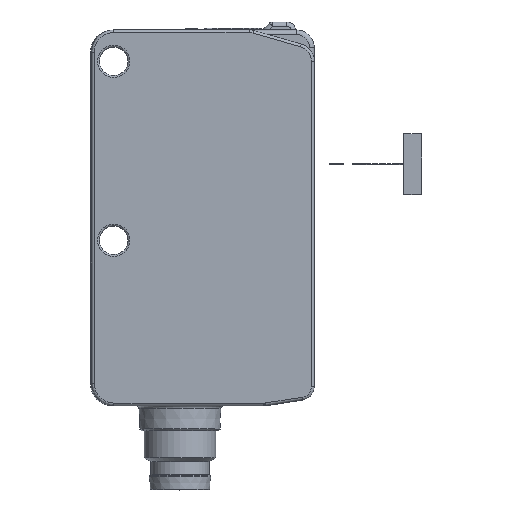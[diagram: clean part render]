
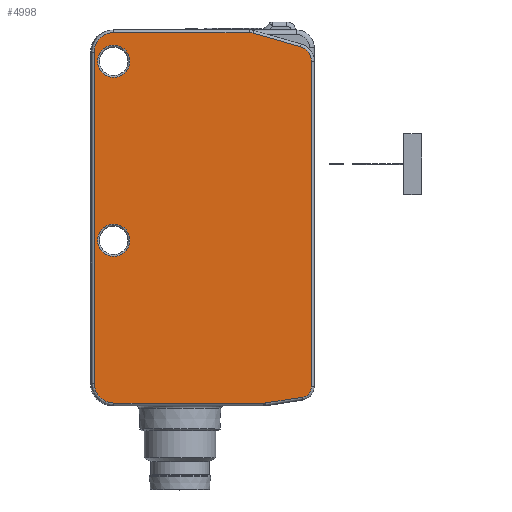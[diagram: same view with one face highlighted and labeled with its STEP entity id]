
A CAD part, top view. The second image highlights one B-rep face of the part: STEP entity #4998.
In plain terms, the highlighted planar face has unit normal (0, 0, 1).
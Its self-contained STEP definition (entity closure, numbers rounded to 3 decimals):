
#3708=FACE_BOUND('',#6026,.T.);
#3709=FACE_BOUND('',#6027,.T.);
#3710=FACE_BOUND('',#6028,.T.);
#3853=B_SPLINE_CURVE_WITH_KNOTS('',3,(#13642,#13643,#13644,#13645,#13646,
#13647,#13648),.UNSPECIFIED.,.F.,.F.,(4,1,1,1,4),(0.,0.282,
0.52,0.726,1.),.UNSPECIFIED.);
#3938=B_SPLINE_CURVE_WITH_KNOTS('',3,(#16103,#16104,#16105,#16106,#16107,
#16108,#16109),.UNSPECIFIED.,.F.,.F.,(4,1,1,1,4),(0.,0.282,
0.52,0.794,1.),.UNSPECIFIED.);
#4467=CIRCLE('',#10942,1.8);
#4471=CIRCLE('',#10948,1.8);
#4657=CIRCLE('',#11298,1.7);
#4660=CIRCLE('',#11302,1.7);
#4661=CIRCLE('',#11305,1.2);
#4998=ADVANCED_FACE('F237237',(#3708,#3709,#3710),#5235,.T.);
#5235=PLANE('',#11306);
#6026=EDGE_LOOP('',(#7580,#7581,#7582,#7583,#7584,#7585,#7586,#7587,#7588,
#7589,#7590));
#6027=EDGE_LOOP('',(#7591));
#6028=EDGE_LOOP('',(#7592));
#7580=ORIENTED_EDGE('',*,*,#9797,.T.);
#7581=ORIENTED_EDGE('',*,*,#9322,.T.);
#7582=ORIENTED_EDGE('',*,*,#9798,.T.);
#7583=ORIENTED_EDGE('',*,*,#9799,.T.);
#7584=ORIENTED_EDGE('',*,*,#9800,.T.);
#7585=ORIENTED_EDGE('',*,*,#9801,.T.);
#7586=ORIENTED_EDGE('',*,*,#9788,.T.);
#7587=ORIENTED_EDGE('',*,*,#9790,.T.);
#7588=ORIENTED_EDGE('',*,*,#9792,.T.);
#7589=ORIENTED_EDGE('',*,*,#9794,.T.);
#7590=ORIENTED_EDGE('',*,*,#9796,.T.);
#7591=ORIENTED_EDGE('',*,*,#9283,.T.);
#7592=ORIENTED_EDGE('',*,*,#9279,.T.);
#8507=VERTEX_POINT('',#13391);
#8511=VERTEX_POINT('',#13429);
#8540=VERTEX_POINT('',#13607);
#8542=VERTEX_POINT('',#13641);
#8825=VERTEX_POINT('',#16050);
#8826=VERTEX_POINT('',#16052);
#8827=VERTEX_POINT('',#16071);
#8828=VERTEX_POINT('',#16075);
#8829=VERTEX_POINT('',#16096);
#8830=VERTEX_POINT('',#16102);
#8831=VERTEX_POINT('',#16134);
#8832=VERTEX_POINT('',#16136);
#8833=VERTEX_POINT('',#16138);
#9279=EDGE_CURVE('E516516',#8507,#8507,#4467,.T.);
#9283=EDGE_CURVE('E513513',#8511,#8511,#4471,.T.);
#9322=EDGE_CURVE('E689689',#8540,#8542,#3853,.T.);
#9788=EDGE_CURVE('E694694',#8825,#8826,#4657,.T.);
#9790=EDGE_CURVE('E695695',#8826,#8827,#10414,.T.);
#9792=EDGE_CURVE('E696696',#8827,#8828,#4660,.T.);
#9794=EDGE_CURVE('E697697',#8828,#8829,#10415,.T.);
#9796=EDGE_CURVE('E698698',#8829,#8830,#3938,.T.);
#9797=EDGE_CURVE('E699699',#8830,#8540,#10416,.T.);
#9798=EDGE_CURVE('E690690',#8542,#8831,#10417,.T.);
#9799=EDGE_CURVE('E691691',#8831,#8832,#10418,.T.);
#9800=EDGE_CURVE('E692692',#8832,#8833,#4661,.T.);
#9801=EDGE_CURVE('E693693',#8833,#8825,#10419,.T.);
#10414=LINE('',#16072,#10723);
#10415=LINE('',#16097,#10724);
#10416=LINE('',#16131,#10725);
#10417=LINE('',#16133,#10726);
#10418=LINE('',#16135,#10727);
#10419=LINE('',#16139,#10728);
#10723=VECTOR('',#12731,1.);
#10724=VECTOR('',#12738,1.);
#10725=VECTOR('',#12741,1.);
#10726=VECTOR('',#12744,1.);
#10727=VECTOR('',#12745,1.);
#10728=VECTOR('',#12748,1.);
#10942=AXIS2_PLACEMENT_3D('',#13390,#11866,#11867);
#10948=AXIS2_PLACEMENT_3D('',#13428,#11878,#11879);
#11298=AXIS2_PLACEMENT_3D('',#16053,#12727,#12728);
#11302=AXIS2_PLACEMENT_3D('',#16076,#12736,#12737);
#11305=AXIS2_PLACEMENT_3D('',#16137,#12746,#12747);
#11306=AXIS2_PLACEMENT_3D('',#16140,#12749,#12750);
#11866=DIRECTION('',(0.,0.,-1.));
#11867=DIRECTION('',(-1.,0.,0.));
#11878=DIRECTION('',(0.,0.,-1.));
#11879=DIRECTION('',(-1.,0.,0.));
#12727=DIRECTION('',(0.,0.,1.));
#12728=DIRECTION('',(1.,0.,0.));
#12731=DIRECTION('',(-0.962,0.275,0.));
#12736=DIRECTION('',(0.,0.,1.));
#12737=DIRECTION('',(0.,-1.,0.));
#12738=DIRECTION('',(-1.,0.,0.));
#12741=DIRECTION('',(0.,-1.,0.));
#12744=DIRECTION('',(1.,0.,0.));
#12745=DIRECTION('',(0.988,0.153,0.));
#12746=DIRECTION('',(0.,0.,1.));
#12747=DIRECTION('',(1.,0.,0.));
#12748=DIRECTION('',(0.,1.,0.));
#12749=DIRECTION('',(0.,0.,1.));
#12750=DIRECTION('',(1.,0.,0.));
#13390=CARTESIAN_POINT('',(0.,20.,14.));
#13391=CARTESIAN_POINT('',(-1.8,20.,14.));
#13428=CARTESIAN_POINT('',(0.,0.,14.));
#13429=CARTESIAN_POINT('',(-1.8,0.,14.));
#13607=CARTESIAN_POINT('',(-2.183,-16.,14.));
#13641=CARTESIAN_POINT('',(0.017,-18.2,14.));
#13642=CARTESIAN_POINT('',(-2.183,-16.,14.));
#13643=CARTESIAN_POINT('',(-2.183,-16.325,14.));
#13644=CARTESIAN_POINT('',(-2.048,-16.923,14.));
#13645=CARTESIAN_POINT('',(-1.547,-17.61,14.));
#13646=CARTESIAN_POINT('',(-0.852,-18.079,14.));
#13647=CARTESIAN_POINT('',(-0.299,-18.2,14.));
#13648=CARTESIAN_POINT('',(0.017,-18.2,14.));
#16050=CARTESIAN_POINT('',(22.1,19.991,14.));
#16052=CARTESIAN_POINT('',(20.867,21.626,14.));
#16053=CARTESIAN_POINT('',(20.4,19.991,14.));
#16071=CARTESIAN_POINT('',(15.587,23.135,14.));
#16072=CARTESIAN_POINT('',(18.227,22.38,14.));
#16075=CARTESIAN_POINT('',(15.12,23.2,14.));
#16076=CARTESIAN_POINT('',(15.12,21.5,14.));
#16096=CARTESIAN_POINT('',(0.017,23.2,14.));
#16097=CARTESIAN_POINT('',(7.569,23.2,14.));
#16102=CARTESIAN_POINT('',(-2.183,21.,14.));
#16103=CARTESIAN_POINT('',(0.017,23.2,14.));
#16104=CARTESIAN_POINT('',(-0.307,23.2,14.));
#16105=CARTESIAN_POINT('',(-0.906,23.065,14.));
#16106=CARTESIAN_POINT('',(-1.658,22.517,14.));
#16107=CARTESIAN_POINT('',(-2.093,21.791,14.));
#16108=CARTESIAN_POINT('',(-2.183,21.237,14.));
#16109=CARTESIAN_POINT('',(-2.183,21.,14.));
#16131=CARTESIAN_POINT('',(-2.183,11.75,14.));
#16133=CARTESIAN_POINT('',(8.447,-18.2,14.));
#16134=CARTESIAN_POINT('',(16.877,-18.2,14.));
#16135=CARTESIAN_POINT('',(18.98,-17.875,14.));
#16136=CARTESIAN_POINT('',(21.083,-17.55,14.));
#16137=CARTESIAN_POINT('',(20.9,-16.364,14.));
#16138=CARTESIAN_POINT('',(22.1,-16.364,14.));
#16139=CARTESIAN_POINT('',(22.1,1.814,14.));
#16140=CARTESIAN_POINT('',(23.65,25.6,14.));
